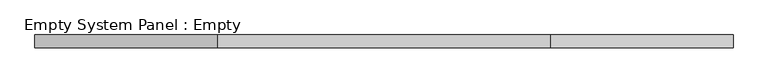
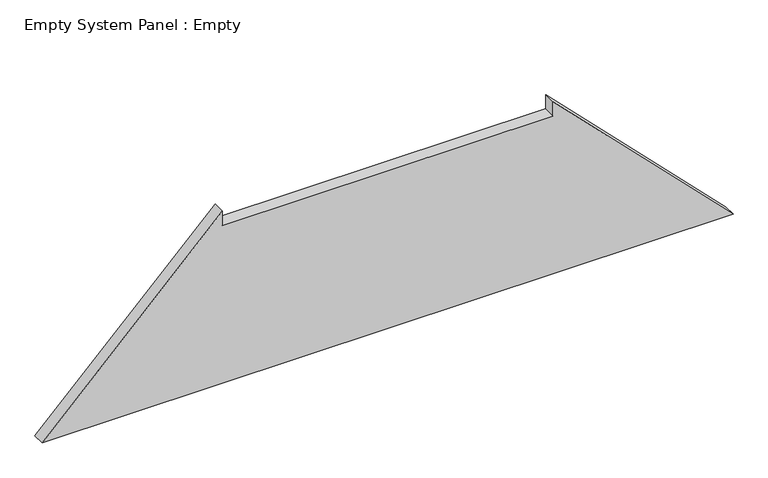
"""IFC4 building model written with IfcOpenShell, lengths in millimetres: plate geometry, Empty System Panel : Empty."""

import ifcopenshell
import ifcopenshell.guid

model = None  # the IFC model being written
_history = None  # IfcOwnerHistory: only IFC2X3 demands one
_inside = {}  # id of a spatial element -> (the spatial element, [elements in it])
_under = {}  # id of a project, library or spatial element -> (it, [spatial elements below it])
_declared = {}  # id of a project -> (the project, [libraries it declares])
_typed = {}  # id of a type object -> (the type object, [elements of that type])
_made_of = {}  # id of a material, layer set ... -> (it, [elements and type objects made of it])


def new_model(schema):
    """Start an empty IFC model of exactly this schema.

    Asked for "IFC4X3", IfcOpenShell would pick the latest addendum, in which some entities
    have other attributes; the version numbers below select the first issue.
    IFC2X3 requires an IfcOwnerHistory on every rooted entity: one is made here for all.
    """
    global model, _history
    if schema == "IFC4X3":
        model = ifcopenshell.file(schema_version=(4, 3, 0, 0))
    else:
        model = ifcopenshell.file(schema=schema)
    _inside.clear()
    _under.clear()
    _declared.clear()
    _typed.clear()
    _made_of.clear()
    _history = None
    if model.schema == "IFC2X3":
        org = make("IfcOrganization", Name="unknown")
        user = make(
            "IfcPersonAndOrganization",
            ThePerson=make("IfcPerson", FamilyName="unknown"),
            TheOrganization=org,
        )
        app = make(
            "IfcApplication",
            ApplicationDeveloper=org,
            Version="unknown",
            ApplicationFullName="unknown",
            ApplicationIdentifier="unknown",
        )
        _history = make(
            "IfcOwnerHistory",
            OwningUser=user,
            OwningApplication=app,
            ChangeAction="ADDED",
            CreationDate=0,
        )
    return model


def make(cls, **values):
    """One entity of the class cls with the attributes given. An attribute that is None is left unset."""
    return model.create_entity(
        cls, **{name: value for name, value in values.items() if value is not None}
    )


def rooted(cls, **values):
    """An entity with a GlobalId (a new one), such as an element, a storey or a relation."""
    return make(cls, GlobalId=ifcopenshell.guid.new(), OwnerHistory=_history, **values)


def si_unit(unit_type, name, prefix=None):
    """IfcSIUnit, for example si_unit("LENGTHUNIT", "METRE", prefix="MILLI")."""
    return make("IfcSIUnit", UnitType=unit_type, Prefix=prefix, Name=name)


def assignment(units):
    """IfcUnitAssignment: the units of a project."""
    return None if units is None else make("IfcUnitAssignment", Units=units)


def point(xyz):
    """IfcCartesianPoint."""
    return None if xyz is None else make("IfcCartesianPoint", Coordinates=xyz)


def direction(xyz):
    """IfcDirection."""
    return None if xyz is None else make("IfcDirection", DirectionRatios=xyz)


def frame(location, z_axis=None, x_axis=None):
    """IfcAxis2Placement3D, a coordinate frame: its origin and axes. An axis left out is left unset."""
    return make(
        "IfcAxis2Placement3D",
        Location=point(location),
        Axis=direction(z_axis),
        RefDirection=direction(x_axis),
    )


def origin():
    """The frame at (0, 0, 0) with its axes left unset."""
    return frame((0.0, 0.0, 0.0))


def place(relative_to, where):
    """IfcLocalPlacement: puts the frame where relative to a parent placement (None: the world)."""
    return make(
        "IfcLocalPlacement", PlacementRelTo=relative_to, RelativePlacement=where
    )


def context(
    kind, dimensions, precision=None, world=None, true_north=None, identifier=None
):
    """IfcGeometricRepresentationContext, for example the 3D "Model" context."""
    return make(
        "IfcGeometricRepresentationContext",
        ContextIdentifier=identifier,
        ContextType=kind,
        CoordinateSpaceDimension=dimensions,
        Precision=precision,
        WorldCoordinateSystem=world,
        TrueNorth=true_north,
    )


def project(units=None, contexts=None):
    """IfcProject with its units and contexts."""
    return rooted(
        "IfcProject",
        Name="project",
        RepresentationContexts=contexts,
        UnitsInContext=assignment(units),
    )


def spatial(cls, under=None, at=None, **own):
    """A site, building, storey or space (cls), placed at a placement, below another one or the project."""
    s = rooted(cls, ObjectPlacement=at, **own)
    if under is not None:
        _under.setdefault(under.id(), (under, []))[1].append(s)
    return s


def polyline(points):
    """IfcPolyline through the points."""
    return make("IfcPolyline", Points=[point(p) for p in points])


def outline(outer, holes=None, kind="AREA"):
    """IfcArbitraryClosedProfileDef: a profile drawn as a closed curve; with holes, ...WithVoids."""
    if holes is None:
        return make("IfcArbitraryClosedProfileDef", ProfileType=kind, OuterCurve=outer)
    return make(
        "IfcArbitraryProfileDefWithVoids",
        ProfileType=kind,
        OuterCurve=outer,
        InnerCurves=holes,
    )


def extrude(swept, where, along, depth):
    """IfcExtrudedAreaSolid: the profile swept, set in the frame where, extruded along a direction by depth."""
    return make(
        "IfcExtrudedAreaSolid",
        SweptArea=swept,
        Position=where,
        ExtrudedDirection=direction(along),
        Depth=depth,
    )


def shape(context_of_items, identifier, shape_type, items):
    """IfcShapeRepresentation: the items that make up one representation, for example the "Body"."""
    return make(
        "IfcShapeRepresentation",
        ContextOfItems=context_of_items,
        RepresentationIdentifier=identifier,
        RepresentationType=shape_type,
        Items=items,
    )


def source(mapping_origin, context_of_items, identifier, shape_type, items):
    """IfcRepresentationMap: a shape defined once, which mapped items show again and again."""
    return make(
        "IfcRepresentationMap",
        MappingOrigin=mapping_origin,
        MappedRepresentation=shape(context_of_items, identifier, shape_type, items),
    )


def transform(
    local_origin,
    x_axis=None,
    y_axis=None,
    z_axis=None,
    scale=None,
    scale2=None,
    scale3=None,
    uniform=True,
):
    """IfcCartesianTransformationOperator3D, or its non-uniform kind. x_axis, y_axis, z_axis: its Axis1, 2, 3."""
    if uniform:
        return make(
            "IfcCartesianTransformationOperator3D",
            Axis1=direction(x_axis),
            Axis2=direction(y_axis),
            LocalOrigin=point(local_origin),
            Scale=scale,
            Axis3=direction(z_axis),
        )
    return make(
        "IfcCartesianTransformationOperator3DnonUniform",
        Axis1=direction(x_axis),
        Axis2=direction(y_axis),
        LocalOrigin=point(local_origin),
        Scale=scale,
        Axis3=direction(z_axis),
        Scale2=scale2,
        Scale3=scale3,
    )


def mapped(mapping_source, mapping_target):
    """IfcMappedItem: shows the shape of a source again, moved by a transform."""
    return make(
        "IfcMappedItem", MappingSource=mapping_source, MappingTarget=mapping_target
    )


def made_of(thing, what):
    """Note that an element or type object is made of a material, layer set ...; save() writes the relation."""
    if what is not None:
        _made_of.setdefault(what.id(), (what, []))[1].append(thing)
    return thing


def element(
    cls,
    number,
    at=None,
    inside=None,
    cuts=None,
    type_object=None,
    material=None,
    context=None,
    identifier="Body",
    shape_type=None,
    held_by="IfcProductDefinitionShape",
    body=None,
    shapes=None,
    **own,
):
    """One element of the class cls, such as IfcWall. Its Tag is "e" and its number.

    at: its placement. inside: the storey or other place that contains it. cuts: it is an
    opening in that element (IfcRelVoidsElement). A single representation is given by context,
    identifier, shape_type and body (its items); several are given by shapes. held_by: the class
    of the entity that holds the representations. save() writes the other relations.
    """
    e = rooted(cls, Tag="e%d" % number, ObjectPlacement=at, **own)
    if body is not None:
        shapes = [shape(context, identifier, shape_type, body)]
    if shapes is not None:
        e.Representation = make(held_by, Representations=shapes)
    if inside is not None:
        _inside.setdefault(inside.id(), (inside, []))[1].append(e)
    if cuts is not None:
        rooted(
            "IfcRelVoidsElement", RelatingBuildingElement=cuts, RelatedOpeningElement=e
        )
    if type_object is not None:
        _typed.setdefault(type_object.id(), (type_object, []))[1].append(e)
    return made_of(e, material)


def aggregate(whole, parts):
    """IfcRelAggregates: a whole, such as a stair, and the parts it consists of."""
    return rooted("IfcRelAggregates", RelatingObject=whole, RelatedObjects=parts)


def save(model, path):
    """Write the relations noted so far, then the file.

    IfcRelAggregates (storeys below a building ...), IfcRelContainedInSpatialStructure (elements
    in a storey), IfcRelDefinesByType, IfcRelAssociatesMaterial and IfcRelDeclares: one each for
    every whole, place, type object, material and project.
    """
    for whole, parts in _under.values():
        aggregate(whole, parts)
    for where, things in _inside.values():
        rooted(
            "IfcRelContainedInSpatialStructure",
            RelatedElements=things,
            RelatingStructure=where,
        )
    for kind, things in _typed.values():
        rooted("IfcRelDefinesByType", RelatedObjects=things, RelatingType=kind)
    for what, things in _made_of.values():
        rooted("IfcRelAssociatesMaterial", RelatedObjects=things, RelatingMaterial=what)
    for by, libraries in _declared.values():
        rooted("IfcRelDeclares", RelatingContext=by, RelatedDefinitions=libraries)
    model.write(path)


def empty_system_panel_empty_6031a073(model_context):
    return source(origin(), model_context, "Body", "SweptSolid", [
        extrude(outline(polyline([(0.0, -2741.4935924), (0.0, 2741.4935924), (1446.0819174, 1311.410615), (1326.0819174, 1311.410615), (1326.0819174, -1311.410615), (1446.0819174, -1311.410615), (0.0, -2741.4935924)])), frame((0.0, -50.0, 0.0), z_axis=(0.0, 1.0, 0.0), x_axis=(0.0, 0.0, 1.0)), (0.0, 0.0, 1.0), 100.0),
    ])


if __name__ == "__main__":
    model = new_model("IFC4")
    model_context = context("Model", 3, world=origin())
    ifc_project = project(units=[si_unit("LENGTHUNIT", "METRE", prefix="MILLI")], contexts=[model_context])
    site = spatial("IfcSite", under=ifc_project)
    building = spatial("IfcBuilding", under=site)
    placement = place(None, origin())
    empty_system_panel_empty_shape = empty_system_panel_empty_6031a073(model_context)
    element("IfcPlate", 1, ObjectType="Empty System Panel : Empty", at=placement, inside=building, context=model_context, shape_type="MappedRepresentation", body=[
        mapped(empty_system_panel_empty_shape, transform((0.0, 0.0, 0.0), x_axis=(1.0, 0.0, 0.0), y_axis=(0.0, 1.0, 0.0), z_axis=(0.0, 0.0, 1.0))),
    ])
    save(model, "model.ifc")
